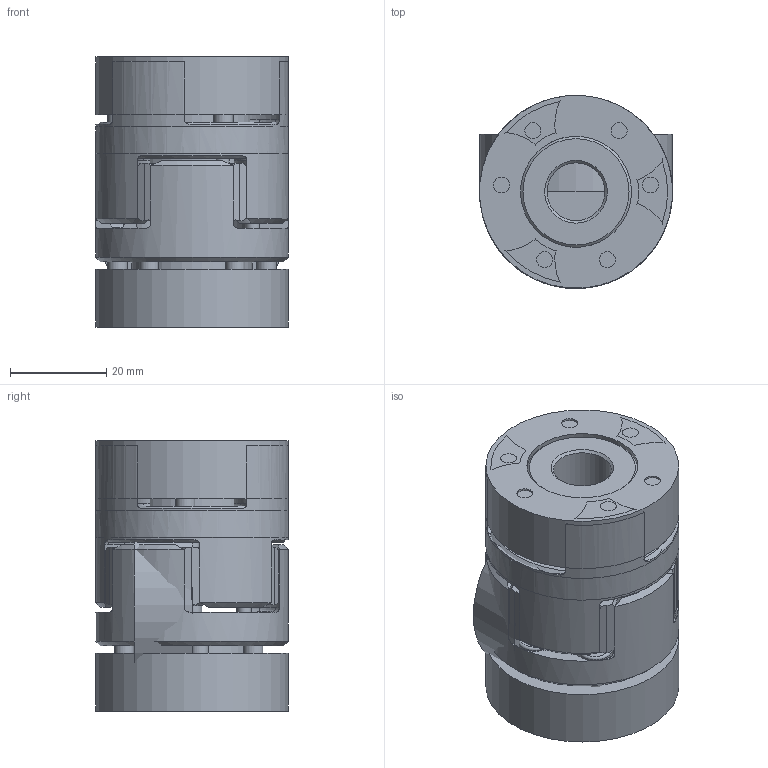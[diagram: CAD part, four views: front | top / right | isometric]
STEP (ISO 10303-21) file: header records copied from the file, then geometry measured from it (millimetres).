
FILE_DESCRIPTION( ( 'Unknown' ), '1' );
FILE_NAME( 'C:/Dokumente und Einstellungen/Sven/Desktop/KBE 3 C - 19.stp', 'Unknown', ( 'Unknown' ), ( 'Unknown' ), 'XStep 1.0', 'Unknown', ' ' );
FILE_SCHEMA( ( 'automotive_design' ) );
Length unit declared in the file: millimetre
Products named in the file (5): Assem1; Zahnkranz_19_Standard; KBE 3 C - 19_Nabe; KBE3-19_Druckring; ISO EN DIN 4762_M4x16
Bounding box: 40 x 40 x 56 mm (x, y, z)
Volume: 83099.4 mm3; surface area: 48456 mm2
Topology: 21 solids, 21 shells, 843 faces, 1889 edges, 1159 vertices
Faces by surface type: plane 278, cone 215, cylinder 209, bspline 72, torus 69
Full cylindrical faces by diameter (mm): 3 x12, 3.3 x27, 3.5 x13, 4 x26, 4.5 x18, 7 x13, 8 x18, 12 x3, 18 x4, 22 x3, 24.925 x3, 40 x6
Entity records: 8090 total; most frequent: CARTESIAN_POINT 2223, DIRECTION 1014, ORIENTED_EDGE 946, EDGE_CURVE 473, AXIS2_PLACEMENT_3D 468, VERTEX_POINT 323, EDGE_LOOP 322, FACE_OUTER_BOUND 266
